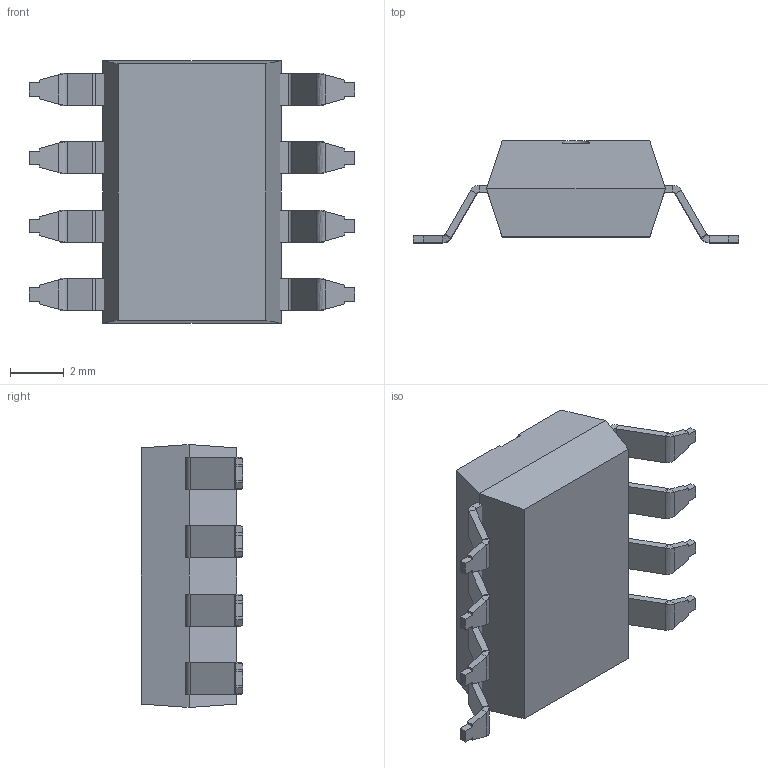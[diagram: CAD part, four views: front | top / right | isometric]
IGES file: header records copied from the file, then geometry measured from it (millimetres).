
Start section: SolidWorks IGES file using analytic representation for surfaces
Global section: file name: C:\Users\David\Dropbox\Jose Espina\Component Packages\DIP8\DIP8-OP8.IGS; native system: SolidWorks 2015; preprocessor: SolidWorks 2015; author: David; date: 151212.124705; units: millimetre
Bounding box: 12.1 x 3.78 x 9.77 mm (x, y, z)
Volume: 242.9 mm3; surface area: 649.3 mm2
Topology: 4 solids, 4 shells, 226 faces, 526 edges, 308 vertices
Faces by surface type: plane 177, revolution 33, bspline 16
